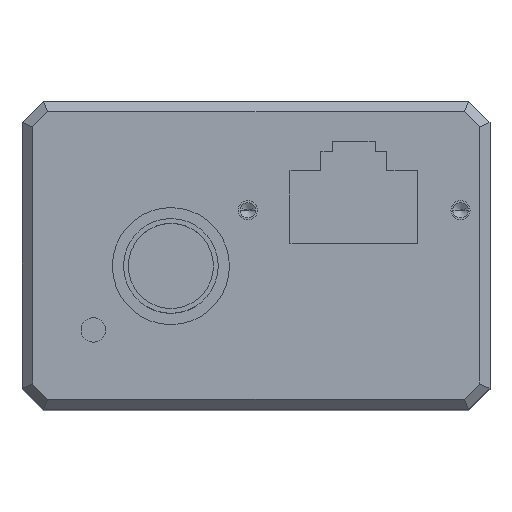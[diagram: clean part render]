
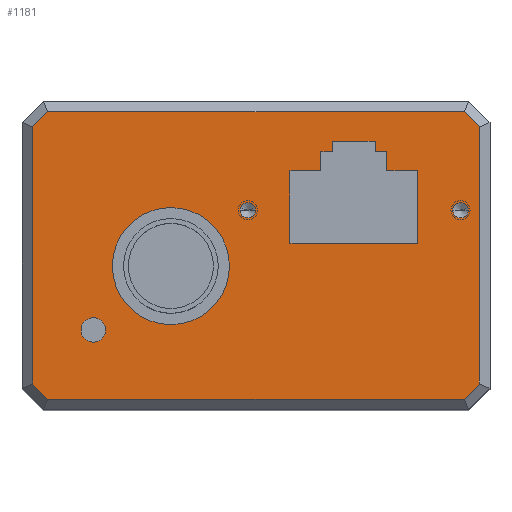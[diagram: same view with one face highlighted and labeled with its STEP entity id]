
A CAD part, top view. The second image highlights one B-rep face of the part: STEP entity #1181.
In plain terms, the highlighted planar face has unit normal (0, 0, 1).
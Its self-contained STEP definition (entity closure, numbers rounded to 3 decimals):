
#1=DIRECTION('',(0.707,0.707,0.));
#2=VECTOR('',#1,2.);
#3=CARTESIAN_POINT('',(19.586,-13.5,60.));
#4=LINE('',#3,#2);
#5=DIRECTION('',(0.707,-0.707,0.));
#6=VECTOR('',#5,2.);
#7=CARTESIAN_POINT('',(-21.,-12.086,60.));
#8=LINE('',#7,#6);
#9=DIRECTION('',(-0.707,-0.707,0.));
#10=VECTOR('',#9,2.);
#11=CARTESIAN_POINT('',(-19.586,13.5,60.));
#12=LINE('',#11,#10);
#13=DIRECTION('',(-0.707,0.707,0.));
#14=VECTOR('',#13,2.);
#15=CARTESIAN_POINT('',(21.,12.086,60.));
#16=LINE('',#15,#14);
#17=CARTESIAN_POINT('',(-15.3,-7.,60.));
#18=DIRECTION('',(0.,0.,-1.));
#19=DIRECTION('',(-1.,0.,0.));
#20=AXIS2_PLACEMENT_3D('',#17,#18,#19);
#22=CARTESIAN_POINT('',(-15.3,-7.,60.));
#23=DIRECTION('',(0.,0.,-1.));
#24=DIRECTION('',(1.,0.,0.));
#25=AXIS2_PLACEMENT_3D('',#22,#23,#24);
#27=CARTESIAN_POINT('',(-8.,-1.,60.));
#28=DIRECTION('',(0.,0.,-1.));
#29=DIRECTION('',(-1.,0.,0.));
#30=AXIS2_PLACEMENT_3D('',#27,#28,#29);
#32=CARTESIAN_POINT('',(-8.,-1.,60.));
#33=DIRECTION('',(0.,0.,-1.));
#34=DIRECTION('',(1.,0.,0.));
#35=AXIS2_PLACEMENT_3D('',#32,#33,#34);
#37=CARTESIAN_POINT('',(-0.77,4.25,60.));
#38=DIRECTION('',(0.,0.,1.));
#39=DIRECTION('',(-1.,0.,0.));
#40=AXIS2_PLACEMENT_3D('',#37,#38,#39);
#42=CARTESIAN_POINT('',(-0.77,4.25,60.));
#43=DIRECTION('',(0.,0.,1.));
#44=DIRECTION('',(1.,0.,0.));
#45=AXIS2_PLACEMENT_3D('',#42,#43,#44);
#47=CARTESIAN_POINT('',(19.23,4.25,60.));
#48=DIRECTION('',(0.,0.,1.));
#49=DIRECTION('',(-1.,0.,0.));
#50=AXIS2_PLACEMENT_3D('',#47,#48,#49);
#52=CARTESIAN_POINT('',(19.23,4.25,60.));
#53=DIRECTION('',(0.,0.,1.));
#54=DIRECTION('',(1.,0.,0.));
#55=AXIS2_PLACEMENT_3D('',#52,#53,#54);
#61=DIRECTION('',(0.,-1.,0.));
#62=VECTOR('',#61,24.172);
#63=CARTESIAN_POINT('',(21.,12.086,60.));
#64=LINE('',#63,#62);
#305=DIRECTION('',(1.,0.,0.));
#306=VECTOR('',#305,39.172);
#307=CARTESIAN_POINT('',(-19.586,13.5,60.));
#308=LINE('',#307,#306);
#325=DIRECTION('',(0.,-1.,0.));
#326=VECTOR('',#325,24.172);
#327=CARTESIAN_POINT('',(-21.,12.086,60.));
#328=LINE('',#327,#326);
#341=DIRECTION('',(1.,0.,0.));
#342=VECTOR('',#341,39.172);
#343=CARTESIAN_POINT('',(-19.586,-13.5,60.));
#344=LINE('',#343,#342);
#665=DIRECTION('',(1.,0.,0.));
#666=VECTOR('',#665,4.);
#667=CARTESIAN_POINT('',(7.196,10.75,60.));
#668=LINE('',#667,#666);
#681=DIRECTION('',(0.,-1.,0.));
#682=VECTOR('',#681,1.);
#683=CARTESIAN_POINT('',(11.196,10.75,60.));
#684=LINE('',#683,#682);
#693=DIRECTION('',(1.,0.,0.));
#694=VECTOR('',#693,1.1);
#695=CARTESIAN_POINT('',(11.196,9.75,60.));
#696=LINE('',#695,#694);
#705=DIRECTION('',(0.,-1.,0.));
#706=VECTOR('',#705,1.8);
#707=CARTESIAN_POINT('',(12.296,9.75,60.));
#708=LINE('',#707,#706);
#717=DIRECTION('',(1.,0.,0.));
#718=VECTOR('',#717,2.9);
#719=CARTESIAN_POINT('',(12.296,7.95,60.));
#720=LINE('',#719,#718);
#729=DIRECTION('',(0.,-1.,0.));
#730=VECTOR('',#729,6.8);
#731=CARTESIAN_POINT('',(15.196,7.95,60.));
#732=LINE('',#731,#730);
#741=DIRECTION('',(1.,0.,0.));
#742=VECTOR('',#741,12.);
#743=CARTESIAN_POINT('',(3.196,1.15,60.));
#744=LINE('',#743,#742);
#753=DIRECTION('',(0.,-1.,0.));
#754=VECTOR('',#753,6.8);
#755=CARTESIAN_POINT('',(3.196,7.95,60.));
#756=LINE('',#755,#754);
#765=DIRECTION('',(1.,0.,0.));
#766=VECTOR('',#765,2.9);
#767=CARTESIAN_POINT('',(3.196,7.95,60.));
#768=LINE('',#767,#766);
#777=DIRECTION('',(0.,-1.,0.));
#778=VECTOR('',#777,1.8);
#779=CARTESIAN_POINT('',(6.096,9.75,60.));
#780=LINE('',#779,#778);
#789=DIRECTION('',(1.,0.,0.));
#790=VECTOR('',#789,1.1);
#791=CARTESIAN_POINT('',(6.096,9.75,60.));
#792=LINE('',#791,#790);
#801=DIRECTION('',(0.,-1.,0.));
#802=VECTOR('',#801,1.);
#803=CARTESIAN_POINT('',(7.196,10.75,60.));
#804=LINE('',#803,#802);
#861=CARTESIAN_POINT('',(21.,12.086,60.));
#862=CARTESIAN_POINT('',(21.,-12.086,60.));
#863=VERTEX_POINT('',#861);
#864=VERTEX_POINT('',#862);
#865=CARTESIAN_POINT('',(19.586,-13.5,60.));
#866=VERTEX_POINT('',#865);
#867=CARTESIAN_POINT('',(-19.586,-13.5,60.));
#868=VERTEX_POINT('',#867);
#869=CARTESIAN_POINT('',(-21.,-12.086,60.));
#870=VERTEX_POINT('',#869);
#871=CARTESIAN_POINT('',(-21.,12.086,60.));
#872=VERTEX_POINT('',#871);
#873=CARTESIAN_POINT('',(-19.586,13.5,60.));
#874=VERTEX_POINT('',#873);
#875=CARTESIAN_POINT('',(19.586,13.5,60.));
#876=VERTEX_POINT('',#875);
#877=CARTESIAN_POINT('',(-16.45,-7.,60.));
#878=CARTESIAN_POINT('',(-14.15,-7.,60.));
#879=VERTEX_POINT('',#877);
#880=VERTEX_POINT('',#878);
#881=CARTESIAN_POINT('',(-13.5,-1.,60.));
#882=CARTESIAN_POINT('',(-2.5,-1.,60.));
#883=VERTEX_POINT('',#881);
#884=VERTEX_POINT('',#882);
#885=CARTESIAN_POINT('',(7.196,10.75,60.));
#886=CARTESIAN_POINT('',(11.196,10.75,60.));
#887=VERTEX_POINT('',#885);
#888=VERTEX_POINT('',#886);
#889=CARTESIAN_POINT('',(7.196,9.75,60.));
#890=VERTEX_POINT('',#889);
#891=CARTESIAN_POINT('',(6.096,9.75,60.));
#892=VERTEX_POINT('',#891);
#893=CARTESIAN_POINT('',(6.096,7.95,60.));
#894=VERTEX_POINT('',#893);
#895=CARTESIAN_POINT('',(3.196,7.95,60.));
#896=VERTEX_POINT('',#895);
#897=CARTESIAN_POINT('',(3.196,1.15,60.));
#898=VERTEX_POINT('',#897);
#899=CARTESIAN_POINT('',(15.196,1.15,60.));
#900=VERTEX_POINT('',#899);
#901=CARTESIAN_POINT('',(15.196,7.95,60.));
#902=VERTEX_POINT('',#901);
#903=CARTESIAN_POINT('',(12.296,7.95,60.));
#904=VERTEX_POINT('',#903);
#905=CARTESIAN_POINT('',(12.296,9.75,60.));
#906=VERTEX_POINT('',#905);
#907=CARTESIAN_POINT('',(11.196,9.75,60.));
#908=VERTEX_POINT('',#907);
#1094=CARTESIAN_POINT('',(-1.495,4.25,60.));
#1095=CARTESIAN_POINT('',(-0.045,4.25,60.));
#1096=VERTEX_POINT('',#1094);
#1097=VERTEX_POINT('',#1095);
#1104=CARTESIAN_POINT('',(18.505,4.25,60.));
#1105=VERTEX_POINT('',#1104);
#1106=CARTESIAN_POINT('',(19.955,4.25,60.));
#1107=VERTEX_POINT('',#1106);
#1108=CARTESIAN_POINT('',(0.,0.,60.));
#1109=DIRECTION('',(0.,0.,1.));
#1110=DIRECTION('',(1.,0.,0.));
#1111=AXIS2_PLACEMENT_3D('',#1108,#1109,#1110);
#1112=PLANE('',#1111);
#1114=ORIENTED_EDGE('',*,*,#1113,.T.);
#1116=ORIENTED_EDGE('',*,*,#1115,.F.);
#1118=ORIENTED_EDGE('',*,*,#1117,.F.);
#1120=ORIENTED_EDGE('',*,*,#1119,.F.);
#1122=ORIENTED_EDGE('',*,*,#1121,.F.);
#1124=ORIENTED_EDGE('',*,*,#1123,.F.);
#1126=ORIENTED_EDGE('',*,*,#1125,.T.);
#1128=ORIENTED_EDGE('',*,*,#1127,.F.);
#1129=EDGE_LOOP('',(#1114,#1116,#1118,#1120,#1122,#1124,#1126,#1128));
#1130=FACE_OUTER_BOUND('',#1129,.F.);
#1132=ORIENTED_EDGE('',*,*,#1131,.F.);
#1134=ORIENTED_EDGE('',*,*,#1133,.F.);
#1135=EDGE_LOOP('',(#1132,#1134));
#1136=FACE_BOUND('',#1135,.F.);
#1138=ORIENTED_EDGE('',*,*,#1137,.F.);
#1140=ORIENTED_EDGE('',*,*,#1139,.F.);
#1141=EDGE_LOOP('',(#1138,#1140));
#1142=FACE_BOUND('',#1141,.F.);
#1144=ORIENTED_EDGE('',*,*,#1143,.F.);
#1146=ORIENTED_EDGE('',*,*,#1145,.T.);
#1148=ORIENTED_EDGE('',*,*,#1147,.F.);
#1150=ORIENTED_EDGE('',*,*,#1149,.T.);
#1152=ORIENTED_EDGE('',*,*,#1151,.F.);
#1154=ORIENTED_EDGE('',*,*,#1153,.T.);
#1156=ORIENTED_EDGE('',*,*,#1155,.T.);
#1158=ORIENTED_EDGE('',*,*,#1157,.F.);
#1160=ORIENTED_EDGE('',*,*,#1159,.F.);
#1162=ORIENTED_EDGE('',*,*,#1161,.F.);
#1164=ORIENTED_EDGE('',*,*,#1163,.F.);
#1166=ORIENTED_EDGE('',*,*,#1165,.F.);
#1167=EDGE_LOOP('',(#1144,#1146,#1148,#1150,#1152,#1154,#1156,#1158,#1160,#1162,
#1164,#1166));
#1168=FACE_BOUND('',#1167,.F.);
#1170=ORIENTED_EDGE('',*,*,#1169,.T.);
#1172=ORIENTED_EDGE('',*,*,#1171,.T.);
#1173=EDGE_LOOP('',(#1170,#1172));
#1174=FACE_BOUND('',#1173,.F.);
#1176=ORIENTED_EDGE('',*,*,#1175,.T.);
#1178=ORIENTED_EDGE('',*,*,#1177,.T.);
#1179=EDGE_LOOP('',(#1176,#1178));
#1180=FACE_BOUND('',#1179,.F.);
#1181=ADVANCED_FACE('',(#1130,#1136,#1142,#1168,#1174,#1180),#1112,.T.);
#21=CIRCLE('',#20,1.15);
#26=CIRCLE('',#25,1.15);
#31=CIRCLE('',#30,5.5);
#36=CIRCLE('',#35,5.5);
#41=CIRCLE('',#40,0.725);
#46=CIRCLE('',#45,0.725);
#51=CIRCLE('',#50,0.725);
#56=CIRCLE('',#55,0.725);
#1113=EDGE_CURVE('',#863,#864,#64,.T.);
#1115=EDGE_CURVE('',#866,#864,#4,.T.);
#1117=EDGE_CURVE('',#868,#866,#344,.T.);
#1119=EDGE_CURVE('',#870,#868,#8,.T.);
#1121=EDGE_CURVE('',#872,#870,#328,.T.);
#1123=EDGE_CURVE('',#874,#872,#12,.T.);
#1125=EDGE_CURVE('',#874,#876,#308,.T.);
#1127=EDGE_CURVE('',#863,#876,#16,.T.);
#1131=EDGE_CURVE('',#879,#880,#21,.T.);
#1133=EDGE_CURVE('',#880,#879,#26,.T.);
#1137=EDGE_CURVE('',#883,#884,#31,.T.);
#1139=EDGE_CURVE('',#884,#883,#36,.T.);
#1143=EDGE_CURVE('',#887,#888,#668,.T.);
#1145=EDGE_CURVE('',#887,#890,#804,.T.);
#1147=EDGE_CURVE('',#892,#890,#792,.T.);
#1149=EDGE_CURVE('',#892,#894,#780,.T.);
#1151=EDGE_CURVE('',#896,#894,#768,.T.);
#1153=EDGE_CURVE('',#896,#898,#756,.T.);
#1155=EDGE_CURVE('',#898,#900,#744,.T.);
#1157=EDGE_CURVE('',#902,#900,#732,.T.);
#1159=EDGE_CURVE('',#904,#902,#720,.T.);
#1161=EDGE_CURVE('',#906,#904,#708,.T.);
#1163=EDGE_CURVE('',#908,#906,#696,.T.);
#1165=EDGE_CURVE('',#888,#908,#684,.T.);
#1169=EDGE_CURVE('',#1096,#1097,#41,.T.);
#1171=EDGE_CURVE('',#1097,#1096,#46,.T.);
#1175=EDGE_CURVE('',#1105,#1107,#51,.T.);
#1177=EDGE_CURVE('',#1107,#1105,#56,.T.);
